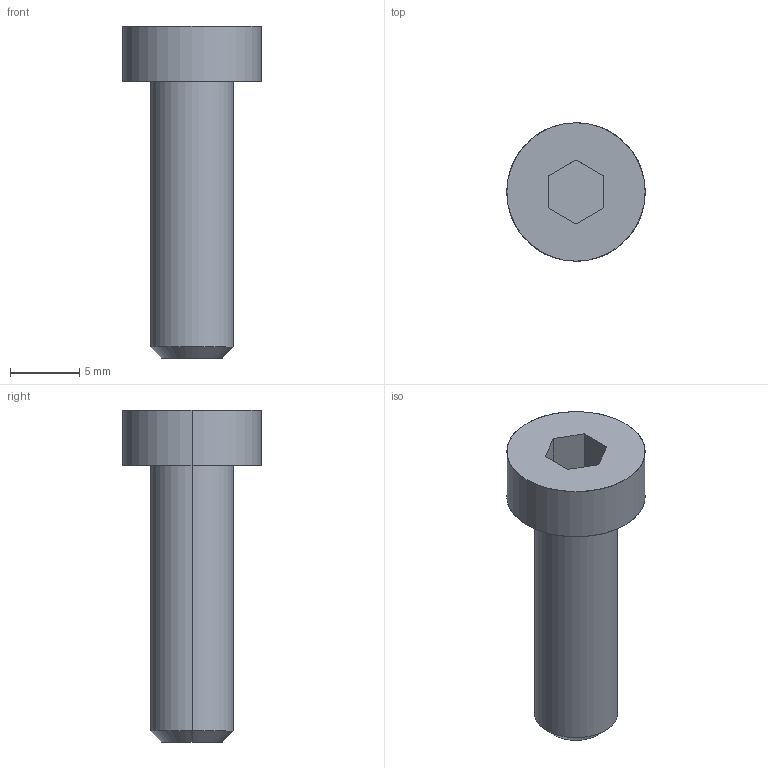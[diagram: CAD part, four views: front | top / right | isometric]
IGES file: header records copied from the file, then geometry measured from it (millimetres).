
Global section: file name: E:\UnigraphicsGraphicData\MISUMI_PRESS-PARTS\IGES\3d_cbs6-20_00453_r00.igs; native system: NX V5.0; preprocessor: UGS NX IGES V5.0; author: MISUMI; date: 20110105.160200; units: millimetre
Bounding box: 10 x 10 x 24 mm (x, y, z)
Surface area: 692.1 mm2 (no closed solid volume)
Topology: 0 solids, 0 shells, 16 faces, 92 edges, 92 vertices
Faces by surface type: bspline 16
